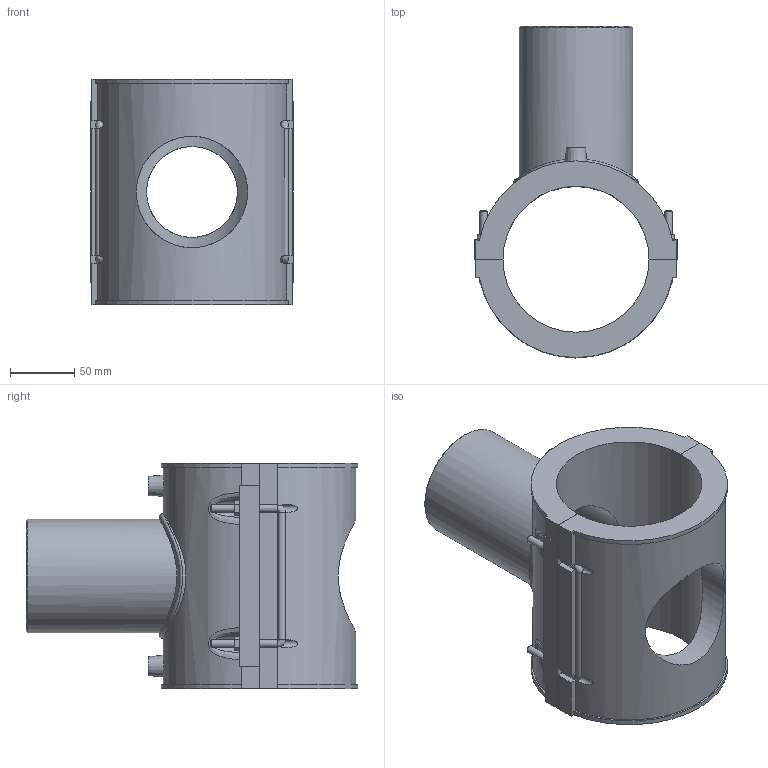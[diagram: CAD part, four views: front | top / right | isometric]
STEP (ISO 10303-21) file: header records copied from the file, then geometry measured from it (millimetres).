
FILE_DESCRIPTION(/* description */ ('PLASSON BRANCH SADDLE 4'''' x 3'''''),/* implementation_level */ '2;1');
FILE_NAME(/* name */ 'C:\Dropbox\KIMPROJECTS-Inventor 2019\99-16-3568-Processing Inch\ASTM ElectroFusion 2021\5958B-2\5958BB03040030.ipt.stp',/* time_stamp */ '2021-08-30T09:53:43+03:00',/* author */ ('KIM'),/* organization */ (''),/* preprocessor_version */ 'ST-DEVELOPER v17.2',/* originating_system */ 'Autodesk Inventor 2019',/* authorisation */ '');
FILE_SCHEMA (('AUTOMOTIVE_DESIGN { 1 0 10303 214 3 1 1 }'));
Length unit declared in the file: inch
Products named in the file (1): 5958BB03040030
Bounding box: 158.46 x 259.12 x 176.02 mm (x, y, z)
Volume: 1445601.1 mm3; surface area: 234487.4 mm2
Topology: 1 solids, 1 shells, 149 faces, 396 edges, 259 vertices
Faces by surface type: plane 95, cylinder 38, bspline 9, cone 7
Full cylindrical faces by diameter (mm): 4 x2, 6 x8, 10 x2, 70.96 x1, 86.926 x1, 88.7 x1, 97.57 x1
Entity records: 5887 total; most frequent: CARTESIAN_POINT 2151, ORIENTED_EDGE 792, DIRECTION 720, EDGE_CURVE 396, VERTEX_POINT 259, LINE 252, VECTOR 252, AXIS2_PLACEMENT_3D 234
